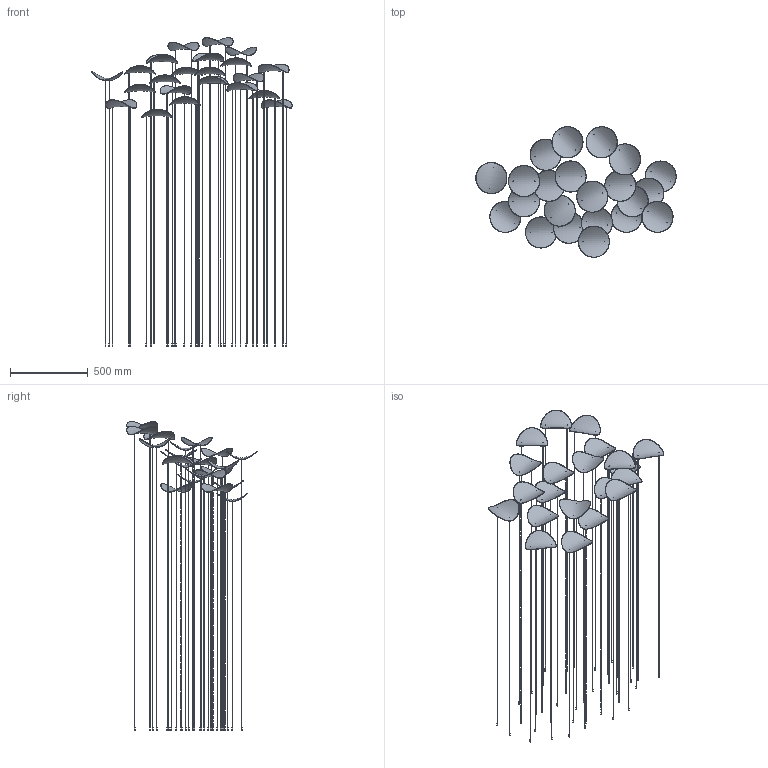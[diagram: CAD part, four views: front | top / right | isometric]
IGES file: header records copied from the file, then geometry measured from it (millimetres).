
Start section: SolidWorks IGES file using analytic representation for surfaces
Global section: file name: F:\燠隴矨\3D\2024-8堎\Wave Floating Leaf Chandelier-D120XH200CM.IGS; native system: SolidWorks 2022; preprocessor: SolidWorks 2022; author: MyPC; date: 240803.102709; units: millimetre
Bounding box: 1290.21 x 840.29 x 1987.72 mm (x, y, z)
Surface area: 2007606.8 mm2 (no closed solid volume)
Topology: 0 solids, 0 shells, 520 faces, 11276 edges, 11276 vertices
Faces by surface type: bspline 348, revolution 172
